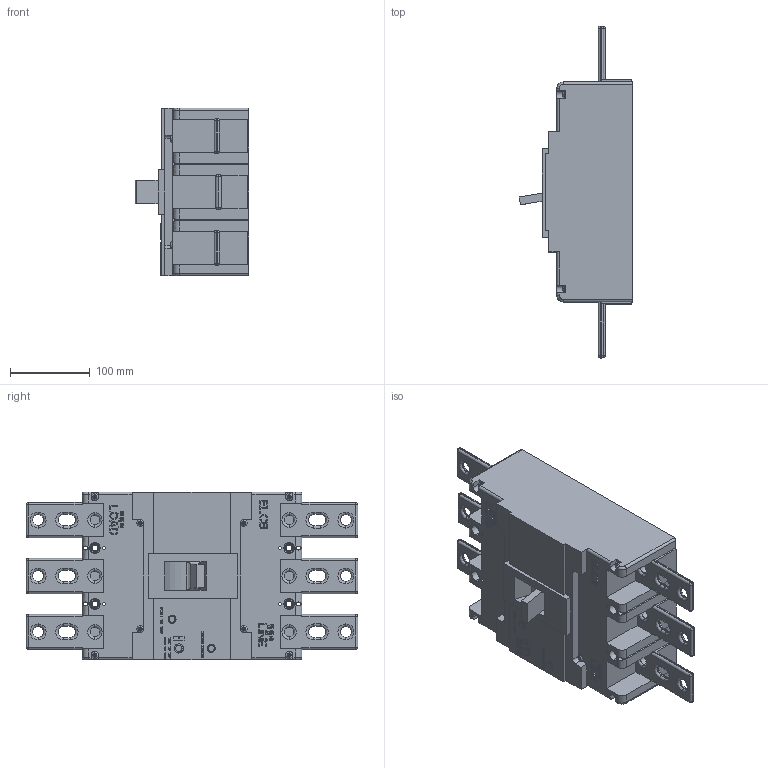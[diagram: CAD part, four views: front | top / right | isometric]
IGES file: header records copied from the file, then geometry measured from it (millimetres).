
Start section:  PTC IGES file: 13-metasol-elcb-800af-ebl803c.igs
Global section: file name: 13-metasol-elcb-800af-ebl803c.igs; native system: Pro/ENGINEER by Parametric Technology Corporation; preprocessor: 2010280; author: mgkimb; organization: Unknown; date: 20131029.143138; units: millimetre
Bounding box: 142.07 x 415 x 210 mm (x, y, z)
Surface area: 306043.9 mm2 (no closed solid volume)
Topology: 0 solids, 0 shells, 2099 faces, 11384 edges, 11384 vertices
Faces by surface type: bspline 1786, revolution 313
